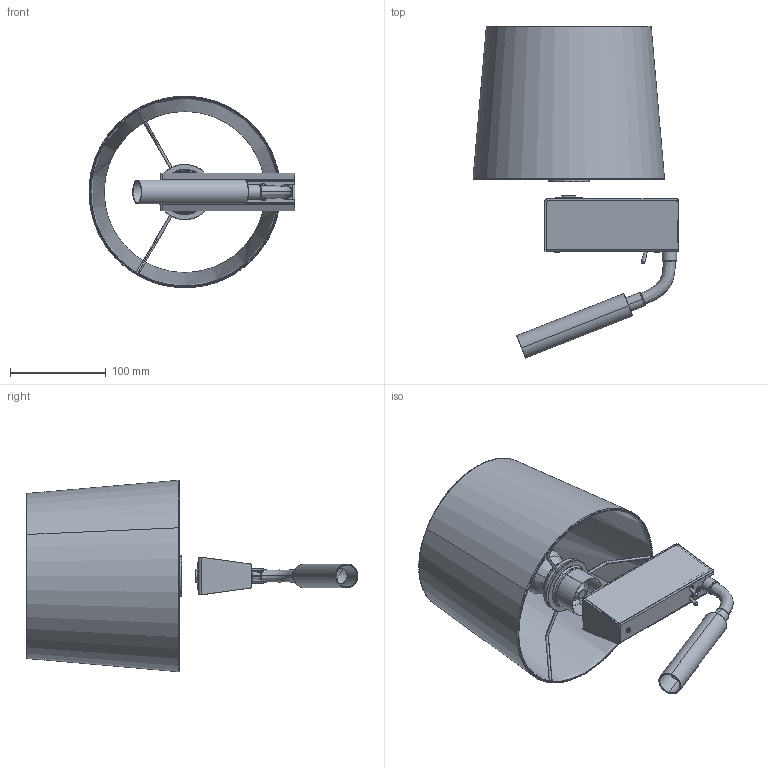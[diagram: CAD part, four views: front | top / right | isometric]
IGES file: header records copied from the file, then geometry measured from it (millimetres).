
Start section: SolidWorks IGES file using analytic representation for surfaces
Global section: file name: F:\GABRYSIA\MODELE 3D\CHILLIN-8213-8214-8215-8216-WWW\CHILLIN-8213-8214-8215-8216.IGS; native system: SolidWorks 2017; preprocessor: SolidWorks 2017; author: Togambi; date: 201019.102824; units: millimetre
Bounding box: 214.9 x 346.24 x 199.81 mm (x, y, z)
Surface area: 312586.4 mm2 (no closed solid volume)
Topology: 0 solids, 0 shells, 793 faces, 10174 edges, 10135 vertices
Faces by surface type: revolution 444, bspline 349
